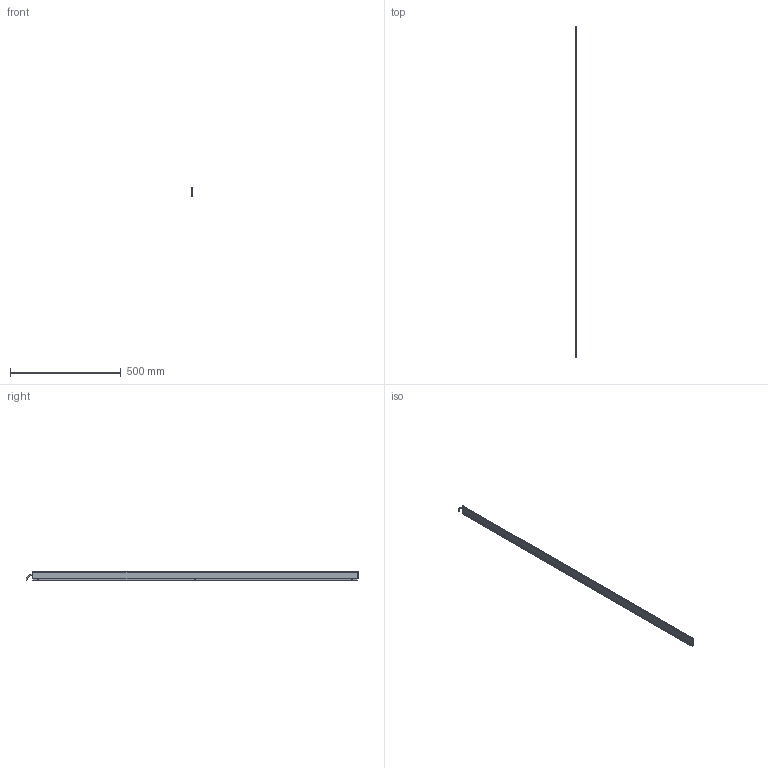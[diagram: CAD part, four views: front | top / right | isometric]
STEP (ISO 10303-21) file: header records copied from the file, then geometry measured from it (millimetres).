
FILE_DESCRIPTION (( 'STEP AP214' ), '1' );
FILE_NAME ('ILG-L-K1-1469mm.STEP', '2017-07-11T07:10:00', ( '' ), ( '' ), 'SwSTEP 2.0', 'SolidWorks 2016', '' );
FILE_SCHEMA (( 'AUTOMOTIVE_DESIGN' ));
Length unit declared in the file: millimetre
Products named in the file (1): ILG-L-K1-1469mm
Bounding box: 9 x 1497.25 x 40.71 mm (x, y, z)
Volume: 208043.7 mm3; surface area: 289484.6 mm2
Topology: 9 solids, 9 shells, 430 faces, 1108 edges, 698 vertices
Faces by surface type: plane 205, cylinder 151, cone 64, torus 10
Entity records: 17910 total; most frequent: CARTESIAN_POINT 2385, DIRECTION 2328, ORIENTED_EDGE 2200, EDGE_CURVE 1100, AXIS2_PLACEMENT_3D 849, VERTEX_POINT 698, LINE 630, VECTOR 630
